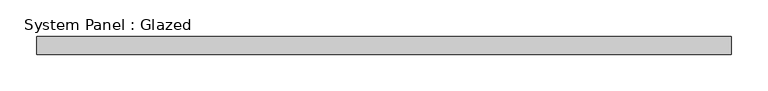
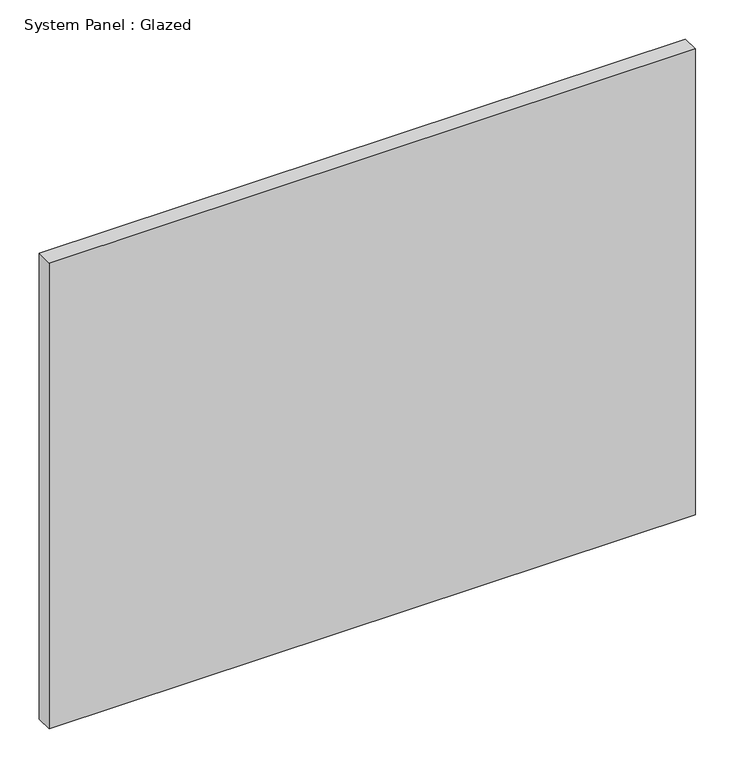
"""IFC4 building model written with IfcOpenShell, lengths in millimetres: plate geometry, System Panel : Glazed."""

from ifc_helpers import new_model, si_unit, origin, origin_with_axes, place, context, project, spatial, polyline, outline, extrude, source, transform, mapped, element, save


def system_panel_glazed_77f2dbbb(model_context):
    return source(origin(), model_context, "Body", "SweptSolid", [
        extrude(outline(polyline([(475.8881596, 24.5), (-475.8881596, 24.5), (-475.8881596, 49.5), (475.8881596, 49.5), (475.8881596, 24.5)])), origin_with_axes(), (0.0, 0.0, 1.0), 724.4100674),
    ])


if __name__ == "__main__":
    model = new_model("IFC4")
    model_context = context("Model", 3, world=origin())
    ifc_project = project(units=[si_unit("LENGTHUNIT", "METRE", prefix="MILLI")], contexts=[model_context])
    site = spatial("IfcSite", under=ifc_project)
    building = spatial("IfcBuilding", under=site)
    placement = place(None, origin())
    system_panel_glazed_shape = system_panel_glazed_77f2dbbb(model_context)
    element("IfcPlate", 1, ObjectType="System Panel : Glazed", at=placement, inside=building, context=model_context, shape_type="MappedRepresentation", body=[
        mapped(system_panel_glazed_shape, transform((0.0, 0.0, 0.0), x_axis=(1.0, 0.0, 0.0), y_axis=(0.0, 1.0, 0.0), z_axis=(0.0, 0.0, 1.0))),
    ])
    save(model, "model.ifc")
